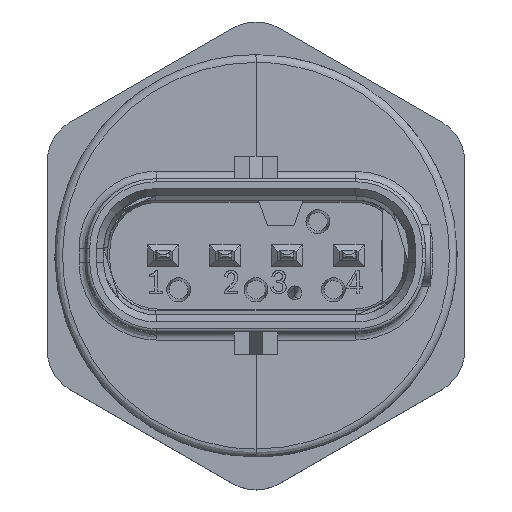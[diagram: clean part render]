
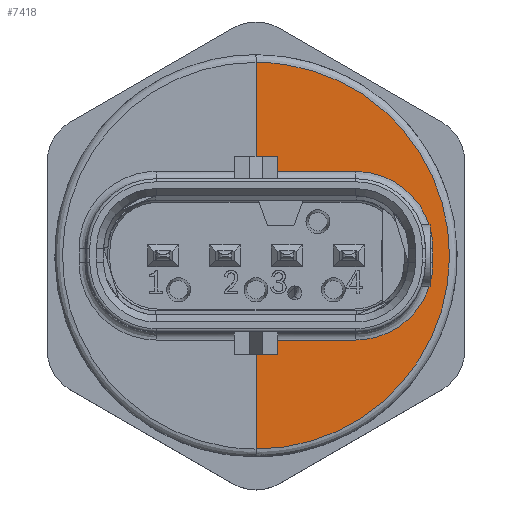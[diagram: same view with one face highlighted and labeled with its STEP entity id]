
A CAD part, top view. The second image highlights one B-rep face of the part: STEP entity #7418.
In plain terms, the highlighted planar face has unit normal (0.018, 0, 1).
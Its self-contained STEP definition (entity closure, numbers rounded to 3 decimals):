
#5770=ELLIPSE('',#22586,5.001,5.);
#5771=ELLIPSE('',#22587,5.001,5.);
#5772=ELLIPSE('',#22588,12.502,12.5);
#6525=FACE_OUTER_BOUND('',#12252,.T.);
#7418=ADVANCED_FACE('',(#6525),#8215,.T.);
#8215=PLANE('',#22589);
#8982=LINE('',#32171,#10502);
#8983=LINE('',#32174,#10503);
#8984=LINE('',#32178,#10504);
#8985=LINE('',#32182,#10505);
#8986=LINE('',#32184,#10506);
#10502=VECTOR('',#24493,1.);
#10503=VECTOR('',#24494,1.);
#10504=VECTOR('',#24497,1.);
#10505=VECTOR('',#24500,1.);
#10506=VECTOR('',#24501,1.);
#12252=EDGE_LOOP('',(#14033,#14034,#14035,#14036,#14037,#14038,#14039,#14040));
#14033=ORIENTED_EDGE('',*,*,#20110,.T.);
#14034=ORIENTED_EDGE('',*,*,#20111,.T.);
#14035=ORIENTED_EDGE('',*,*,#20112,.T.);
#14036=ORIENTED_EDGE('',*,*,#20113,.T.);
#14037=ORIENTED_EDGE('',*,*,#20114,.T.);
#14038=ORIENTED_EDGE('',*,*,#20115,.T.);
#14039=ORIENTED_EDGE('',*,*,#20116,.T.);
#14040=ORIENTED_EDGE('',*,*,#20117,.T.);
#18357=VERTEX_POINT('',#32172);
#18358=VERTEX_POINT('',#32173);
#18359=VERTEX_POINT('',#32175);
#18360=VERTEX_POINT('',#32177);
#18361=VERTEX_POINT('',#32179);
#18362=VERTEX_POINT('',#32181);
#18363=VERTEX_POINT('',#32183);
#18364=VERTEX_POINT('',#32185);
#20110=EDGE_CURVE('',#18357,#18358,#8982,.T.);
#20111=EDGE_CURVE('',#18358,#18359,#8983,.T.);
#20112=EDGE_CURVE('',#18359,#18360,#5770,.T.);
#20113=EDGE_CURVE('',#18360,#18361,#8984,.T.);
#20114=EDGE_CURVE('',#18361,#18362,#5771,.T.);
#20115=EDGE_CURVE('',#18362,#18363,#8985,.T.);
#20116=EDGE_CURVE('',#18363,#18364,#8986,.T.);
#20117=EDGE_CURVE('',#18364,#18357,#5772,.T.);
#22586=AXIS2_PLACEMENT_3D('',#32176,#24495,#24496);
#22587=AXIS2_PLACEMENT_3D('',#32180,#24498,#24499);
#22588=AXIS2_PLACEMENT_3D('',#32186,#24502,#24503);
#22589=AXIS2_PLACEMENT_3D('',#32187,#24504,#24505);
#24493=DIRECTION('',(0.,-1.,0.));
#24494=DIRECTION('',(1.,0.,-0.017));
#24495=DIRECTION('',(-0.017,0.,-1.));
#24496=DIRECTION('',(1.,0.,-0.017));
#24497=DIRECTION('',(0.,-1.,0.));
#24498=DIRECTION('',(-0.017,0.,-1.));
#24499=DIRECTION('',(1.,0.,-0.017));
#24500=DIRECTION('',(-1.,0.,0.017));
#24501=DIRECTION('',(0.,-1.,0.));
#24502=DIRECTION('',(0.017,0.,1.));
#24503=DIRECTION('',(-1.,0.,0.017));
#24504=DIRECTION('',(0.017,0.,1.));
#24505=DIRECTION('',(1.,0.,-0.017));
#32171=CARTESIAN_POINT('',(0.,15.,11.4));
#32172=CARTESIAN_POINT('',(0.,12.5,11.4));
#32173=CARTESIAN_POINT('',(0.,5.45,11.4));
#32174=CARTESIAN_POINT('',(14.,5.45,11.156));
#32175=CARTESIAN_POINT('',(6.441,5.45,11.288));
#32176=CARTESIAN_POINT('',(6.441,0.45,11.288));
#32177=CARTESIAN_POINT('',(11.441,0.45,11.2));
#32178=CARTESIAN_POINT('',(11.441,15.,11.2));
#32179=CARTESIAN_POINT('',(11.441,-0.45,11.2));
#32180=CARTESIAN_POINT('',(6.441,-0.45,11.288));
#32181=CARTESIAN_POINT('',(6.441,-5.45,11.288));
#32182=CARTESIAN_POINT('',(14.,-5.45,11.156));
#32183=CARTESIAN_POINT('',(0.,-5.45,11.4));
#32184=CARTESIAN_POINT('',(0.,15.,11.4));
#32185=CARTESIAN_POINT('',(0.,-12.5,11.4));
#32186=CARTESIAN_POINT('',(0.009,0.,11.4));
#32187=CARTESIAN_POINT('',(14.,15.,11.156));
